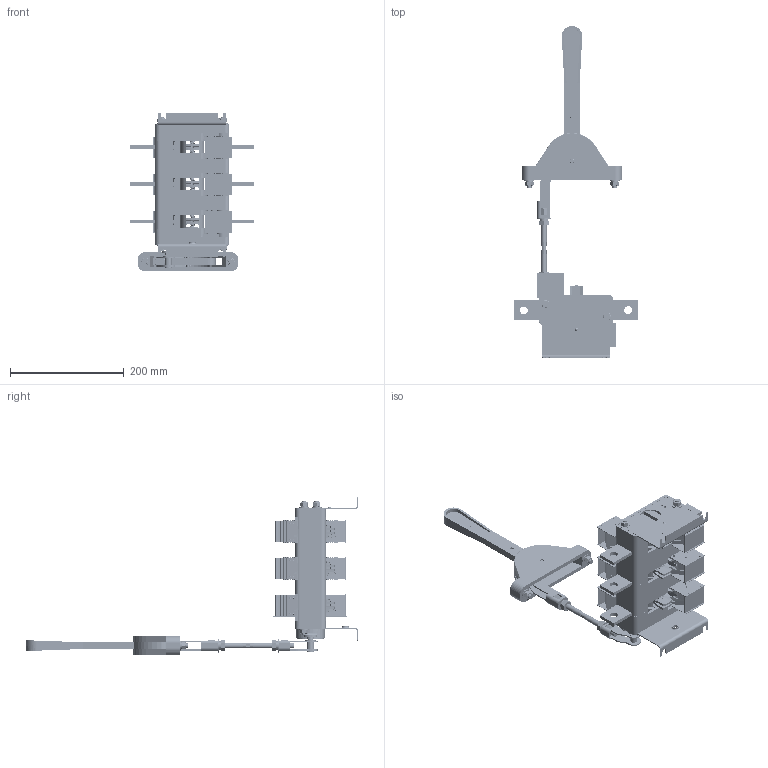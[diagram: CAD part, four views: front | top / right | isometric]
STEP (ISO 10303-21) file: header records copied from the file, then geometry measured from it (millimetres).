
FILE_DESCRIPTION (( 'STEP AP214' ), '1' );
FILE_NAME ('ﾂﾐ32-39ﾔ ﾃﾆﾈﾊ.642523.009-07 (ﾀ31240-630ﾀ).STEP', '2022-07-14T13:05:39', ( '' ), ( '' ), 'SwSTEP 2.0', 'SolidWorks 2018', '' );
FILE_SCHEMA (( 'AUTOMOTIVE_DESIGN' ));
Length unit declared in the file: millimetre
Products named in the file (59): Ãàéêà 2Ì8-6Í.5.016; Çàãëóøêà_ÃÆÈÊ.735211.004_â¥å­®«®£¨ç¥áª ï; 抔樖罻; 仫桦郷闷仁.758292.007_倫32-39; Ãàéêà Ì10-6Í.016; 想囫蜩磬_闷仁.745355.017; 澡犟囹铕 忄豚 闷仁.745484.008.SLDDRW; Áîëò Ì8õ25.58.019; 锐牮钽囫栩咫黖闷仁.686433.004_-01 (帷獱); 务黖闷仁.715411.024_倫39; Áîêîâèíà ëåâàÿ ÃÆÈÊ.735224.029_-01(à¥§ì¡ ); 羊屙赅_闷仁.741226.004; 殃钺郷闷仁.301535.005; Ñêîáà_ÃÆÈÊ.745252.013_á¡®àª  á ®á®¡®© £ ©ª®©; Ðóêîÿòêà_019; 殃钺郷闷仁.745326.026_-01 (帷獱); ﾎ_ﾃﾆﾈﾊ.715411.029_-01 (癸ｮ爼); 锐牮钽囫栩咫黖闷仁.741271.008; Êîíòàêò ïîäâèæíûé_ÃÆÈÊ.745355.014; Êîðïóñ ëåâûé ÃÆÈÊ.735384.050; Áîêîâèíà ïðàâàÿ_ÃÆÈÊ.735224.028; 暑痫篑 镳噔 闷仁.735384.048; 想囫蜩磬_闷仁.745355.016; Øàéáà ñïåöèàëüíàÿ; ﾘ琺矜 8 65ﾃ 016; 澡犟囹铕_闷仁.745484.007; ﾂ琿 ﾃﾆﾈﾊ.715274.004; Òàáëè÷êà äëÿ ñáîðêè ÷èñòàÿ; ﾏ跖浯_ﾃﾆﾈﾊ.753553.019_ｯ璢ｦｨｭ; Ñêîáà_ÃÆÈÊ.745252.012_á¡®àª  ¯®¤ ®á®¡ãî £ ©ªã; Ñêîáà010; 务黖闷仁.715411.020; ﾏ跖浯_ﾃﾆﾈﾊ.753553.012_-01 (癸ｮ爼); Ãàéêà 2Ì10-6Í.5.016; ﾂﾐ32-39ﾔ ﾃﾆﾈﾊ.642523.009-07 (ﾀ31240-630ﾀ); ﾘ琺矜 10 65ﾃ 016; 暑痫篑_闷仁.735384.066_儐垔.735384.066; Ïîâîäîê_ÃÆÈÊ.304594.013ÑÁ_2 ­ ¯à ¢«¥­¨ï; Êîðïóñ ñðåäíèé ÃÆÈÊ.735384.049; Êàìåðà äóãîãàñèòåëüíàÿ ÃÆÈÊ.686431.026_-01 (á¡®àª )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
Assembly tree (104 placements, depth 5):
  ﾂﾐ32-39ﾔ ﾃﾆﾈﾊ.642523.009-07 (ﾀ31240-630ﾀ)
    Êîðïóñ ëåâûé ÃÆÈÊ.735384.050
    暑痫篑 镳噔 闷仁.735384.048
    Êîðïóñ ñðåäíèé ÃÆÈÊ.735384.049  x2
    ﾂ琿 ﾃﾆﾈﾊ.715274.004
    Êîíòàêò ïîäâèæíûé ÃÆÈÊ.685179.146  x3
      想囫蜩磬_闷仁.745355.016
      务黖闷仁.715411.020
      Êîíòàêò ïîäâèæíûé_ÃÆÈÊ.745355.014
      澡犟囹铕_闷仁.745484.007
      ﾏ跖浯_ﾃﾆﾈﾊ.753553.012_-01 (癸ｮ爼)
    Áîêîâèíà ëåâàÿ ÃÆÈÊ.735224.029_-01(à¥§ì¡ )
    Áîêîâèíà ïðàâàÿ_ÃÆÈÊ.735224.028
    澡犟囹铕 忄豚 闷仁.745484.008.SLDDRW  x2
    ﾏ跖浯 ﾃﾆﾈﾊ.753553.013_-01 (癸ｮ爼)  x2
    Øïèëüêà Ì8 ÃÆÈÊ.758292.006  x2
    Ãàéêà 2Ì8-6Í.5.016  x4
    ﾘ琺矜 8 65ﾃ 016  x2
    Êàìåðà äóãîãàñèòåëüíàÿ ÃÆÈÊ.686431.026_-01 (á¡®àª )  x6
      想囫蜩磬_闷仁.745355.017
      羊屙赅_闷仁.741226.004
      锐牮钽囫栩咫黖闷仁.686433.004_-01 (帷獱)
        殃钺郷闷仁.745326.026_-01 (帷獱)  x2
        Èñêðîãàñèòåëü_ÃÆÈÊ.741271.008_-01 (®â¢¥àáâ¨ï)
        抔樖罻  x2
      锐牮钽囫栩咫黖闷仁.741271.008
    ﾘ琺矜 8 ﾃﾆﾈﾊ.758491.024  x4
    ﾂ鏆鮏 ﾃﾆﾈﾊ.745485.006  x6
    Ðóêîÿòêà ÃÆÈÊ.303658.021
      暑痫篑_闷仁.735384.066_儐垔.735384.066
      Ðóêîÿòêà_019
        挓鎀霠罻_630餛1
        瀇僔蠂縺035
      婰膲僗闉010
      Ñêîáà010
      ﾏ跖浯_ﾃﾆﾈﾊ.753553.019_ｯ璢ｦｨｭ
      îñü023
      殃钺郷闷仁.301535.006蚜
        Ñêîáà_ÃÆÈÊ.745252.013_á¡®àª  á ®á®¡®© £ ©ª®©
        Ãàéêà Ì10-6Í.016
      仫桦郷闷仁.758292.007_倫32-39
      殃钺郷闷仁.301535.005
        Ñêîáà_ÃÆÈÊ.745252.012_á¡®àª  ¯®¤ ®á®¡ãî £ ©ªã
        Ãàéêà Ì10-6Í.016
      务黖闷仁.715411.024_倫39
      Ãàéêà 2Ì10-6Í.5.016  x2
      Ðóêîÿòêà ÃÆÈÊ.303658.017_2 ­ ¯à ¢«¥­¨ï
        Ïîâîäîê_ÃÆÈÊ.304594.013ÑÁ_2 ­ ¯à ¢«¥­¨ï
          Ïîâîäîê_ÃÆÈÊ.741321.007_2 ­ ¯à ¢«¥­¨ï
          想囫蜩磬_闷仁.745355.030
          ﾎ_ﾃﾆﾈﾊ.715411.029_-01 (癸ｮ爼)
        Îáîëî÷êà2_630À_2 ­ ¯à ¢«¥­¨ï
      ﾘ琺矜 ⅰⅱ浯 ﾃﾆﾈﾊ.758491.067  x2
      Çàãëóøêà_ÃÆÈÊ.735211.004_â¥å­®«®£¨ç¥áª ï
      Áîëò Ì8õ25.58.019  x2
      ﾘ琺矜 8.01.019  x2
      ﾘ琺矜 8 65ﾃ 016  x2
      Ãàéêà 2Ì8-6Í.5.016  x2
      ﾘ琺矜 10 65ﾃ 016  x2
      Øàéáà ñïåöèàëüíàÿ  x2
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Bounding box: 219 x 582.78 x 278.5 mm (x, y, z)
Volume: 1316882.8 mm3; surface area: 780937.4 mm2
Topology: 176 solids, 176 shells, 5485 faces, 13892 edges, 8894 vertices
Faces by surface type: plane 3714, cylinder 1454, cone 138, bspline 93, sphere 54, torus 32
Entity records: 72834 total; most frequent: CARTESIAN_POINT 22521, DIRECTION 9855, ORIENTED_EDGE 9208, EDGE_CURVE 4604, AXIS2_PLACEMENT_3D 3484, VERTEX_POINT 2964, VECTOR 2887, LINE 2887
